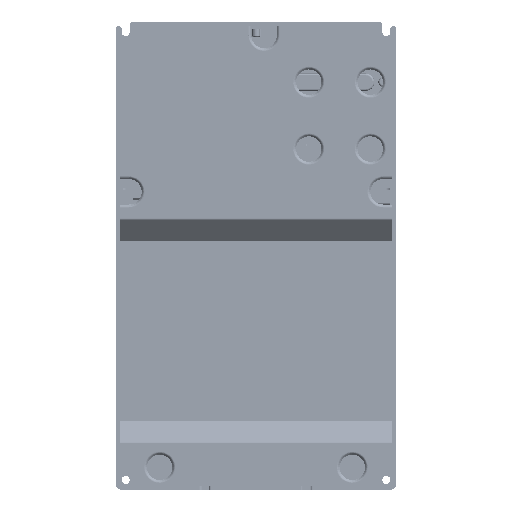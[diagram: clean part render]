
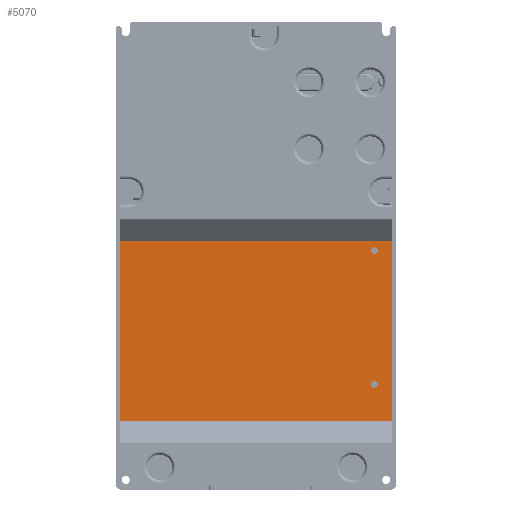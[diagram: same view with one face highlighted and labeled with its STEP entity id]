
A CAD part, front view. The second image highlights one B-rep face of the part: STEP entity #5070.
In plain terms, the highlighted planar face has unit normal (0, -1, 0).
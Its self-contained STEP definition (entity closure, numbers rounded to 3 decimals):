
#1229=DIRECTION('',(1.,0.,0.));
#1230=VECTOR('',#1229,134.769);
#1231=CARTESIAN_POINT('',(-11.384,14.5,-101.75));
#1232=LINE('',#1231,#1230);
#1598=DIRECTION('',(0.,0.,-1.));
#1599=VECTOR('',#1598,203.5);
#1600=CARTESIAN_POINT('',(-11.384,14.5,101.75));
#1601=LINE('',#1600,#1599);
#1605=DIRECTION('',(1.,0.,0.));
#1606=VECTOR('',#1605,134.769);
#1607=CARTESIAN_POINT('',(-11.384,14.5,101.75));
#1608=LINE('',#1607,#1606);
#1612=CARTESIAN_POINT('',(96.,14.5,88.5));
#1613=DIRECTION('',(0.,-1.,0.));
#1614=DIRECTION('',(0.,0.,-1.));
#1615=AXIS2_PLACEMENT_3D('',#1612,#1613,#1614);
#1620=CARTESIAN_POINT('',(96.,14.5,88.5));
#1621=DIRECTION('',(0.,-1.,0.));
#1622=DIRECTION('',(0.,0.,1.));
#1623=AXIS2_PLACEMENT_3D('',#1620,#1621,#1622);
#1628=CARTESIAN_POINT('',(-4.,14.5,88.5));
#1629=DIRECTION('',(0.,-1.,0.));
#1630=DIRECTION('',(0.,0.,-1.));
#1631=AXIS2_PLACEMENT_3D('',#1628,#1629,#1630);
#1636=CARTESIAN_POINT('',(-4.,14.5,88.5));
#1637=DIRECTION('',(0.,-1.,0.));
#1638=DIRECTION('',(0.,0.,1.));
#1639=AXIS2_PLACEMENT_3D('',#1636,#1637,#1638);
#1644=DIRECTION('',(0.,0.,1.));
#1645=VECTOR('',#1644,203.5);
#1646=CARTESIAN_POINT('',(123.384,14.5,-101.75));
#1647=LINE('',#1646,#1645);
#3620=CARTESIAN_POINT('',(123.384,14.5,101.75));
#3621=VERTEX_POINT('',#3620);
#3622=CARTESIAN_POINT('',(-11.384,14.5,101.75));
#3623=VERTEX_POINT('',#3622);
#3974=CARTESIAN_POINT('',(-11.384,14.5,-101.75));
#3975=VERTEX_POINT('',#3974);
#3976=CARTESIAN_POINT('',(123.384,14.5,-101.75));
#3977=VERTEX_POINT('',#3976);
#4002=CARTESIAN_POINT('',(96.,14.5,86.));
#4003=CARTESIAN_POINT('',(96.,14.5,91.));
#4004=VERTEX_POINT('',#4002);
#4005=VERTEX_POINT('',#4003);
#4006=CARTESIAN_POINT('',(-4.,14.5,86.));
#4007=CARTESIAN_POINT('',(-4.,14.5,91.));
#4008=VERTEX_POINT('',#4006);
#4009=VERTEX_POINT('',#4007);
#5046=CARTESIAN_POINT('',(-11.5,14.5,105.));
#5047=DIRECTION('',(0.,-1.,0.));
#5048=DIRECTION('',(1.,0.,0.));
#5049=AXIS2_PLACEMENT_3D('',#5046,#5047,#5048);
#5050=PLANE('',#5049);
#5051=ORIENTED_EDGE('',*,*,#4684,.F.);
#5052=ORIENTED_EDGE('',*,*,#5041,.F.);
#5053=ORIENTED_EDGE('',*,*,#4280,.T.);
#5055=ORIENTED_EDGE('',*,*,#5054,.F.);
#5056=EDGE_LOOP('',(#5051,#5052,#5053,#5055));
#5057=FACE_OUTER_BOUND('',#5056,.F.);
#5059=ORIENTED_EDGE('',*,*,#5058,.T.);
#5061=ORIENTED_EDGE('',*,*,#5060,.T.);
#5062=EDGE_LOOP('',(#5059,#5061));
#5063=FACE_BOUND('',#5062,.F.);
#5065=ORIENTED_EDGE('',*,*,#5064,.T.);
#5067=ORIENTED_EDGE('',*,*,#5066,.T.);
#5068=EDGE_LOOP('',(#5065,#5067));
#5069=FACE_BOUND('',#5068,.F.);
#1616=CIRCLE('',#1615,2.5);
#1624=CIRCLE('',#1623,2.5);
#1632=CIRCLE('',#1631,2.5);
#1640=CIRCLE('',#1639,2.5);
#4280=EDGE_CURVE('',#3623,#3621,#1608,.T.);
#4684=EDGE_CURVE('',#3975,#3977,#1232,.T.);
#5041=EDGE_CURVE('',#3623,#3975,#1601,.T.);
#5054=EDGE_CURVE('',#3977,#3621,#1647,.T.);
#5058=EDGE_CURVE('',#4004,#4005,#1616,.T.);
#5060=EDGE_CURVE('',#4005,#4004,#1624,.T.);
#5064=EDGE_CURVE('',#4008,#4009,#1632,.T.);
#5066=EDGE_CURVE('',#4009,#4008,#1640,.T.);
#5070=ADVANCED_FACE('',(#5057,#5063,#5069),#5050,.T.);
